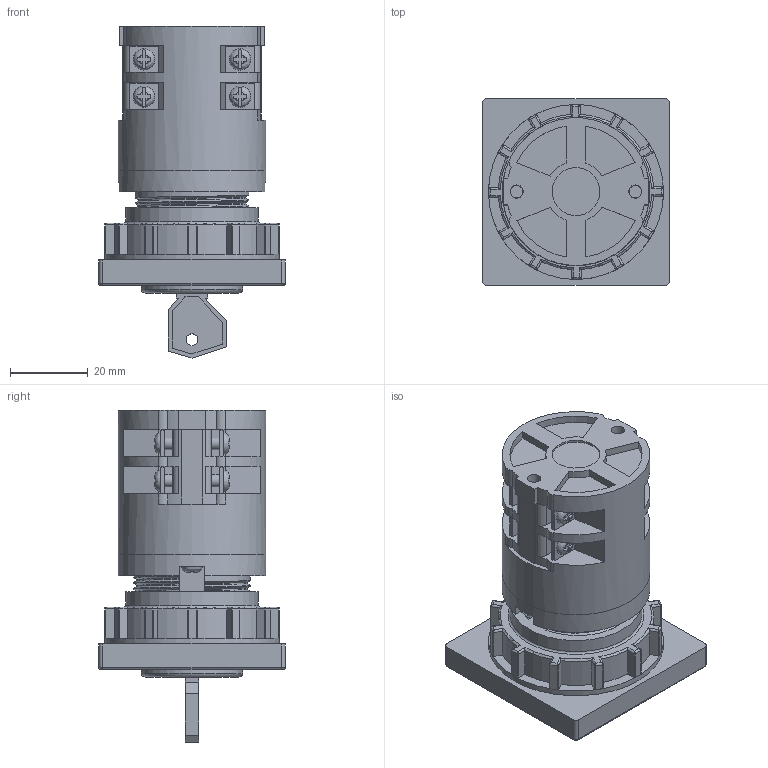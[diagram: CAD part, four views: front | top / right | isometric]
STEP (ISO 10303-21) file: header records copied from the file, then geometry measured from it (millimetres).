
FILE_DESCRIPTION(/* description */ (''),/* implementation_level */ '2;1');
FILE_NAME(/* name */ '4G10-U_wykonanie_S30_2_korpusy.stp',/* time_stamp */ '2021-07-21T08:46:02+02:00',/* author */ (''),/* organization */ (''),/* preprocessor_version */ 'ST-DEVELOPER v18.1',/* originating_system */ 'SIEMENS PLM Software NX 1965',/* authorisation */ '');
FILE_SCHEMA (('AUTOMOTIVE_DESIGN { 1 0 10303 214 3 1 1 1 }'));
Length unit declared in the file: millimetre
Products named in the file (1): 4G10-U_wykonanie_S30_2_korpusy_stp
Bounding box: 48 x 48 x 85.42 mm (x, y, z)
Volume: 78151.5 mm3; surface area: 19542.4 mm2
Topology: 1 solids, 1 shells, 613 faces, 1608 edges, 1010 vertices
Faces by surface type: plane 393, cylinder 157, bspline 47, torus 16
Full cylindrical faces by diameter (mm): 3 x1, 3.2 x10, 3.3 x2, 3.4 x2, 12.3 x1, 15 x1, 26 x1, 34 x1, 38 x2, 45 x1
Entity records: 24268 total; most frequent: CARTESIAN_POINT 9718, ORIENTED_EDGE 3072, DIRECTION 2910, EDGE_CURVE 1536, AXIS2_PLACEMENT_3D 1008, VERTEX_POINT 996, LINE 894, VECTOR 894
